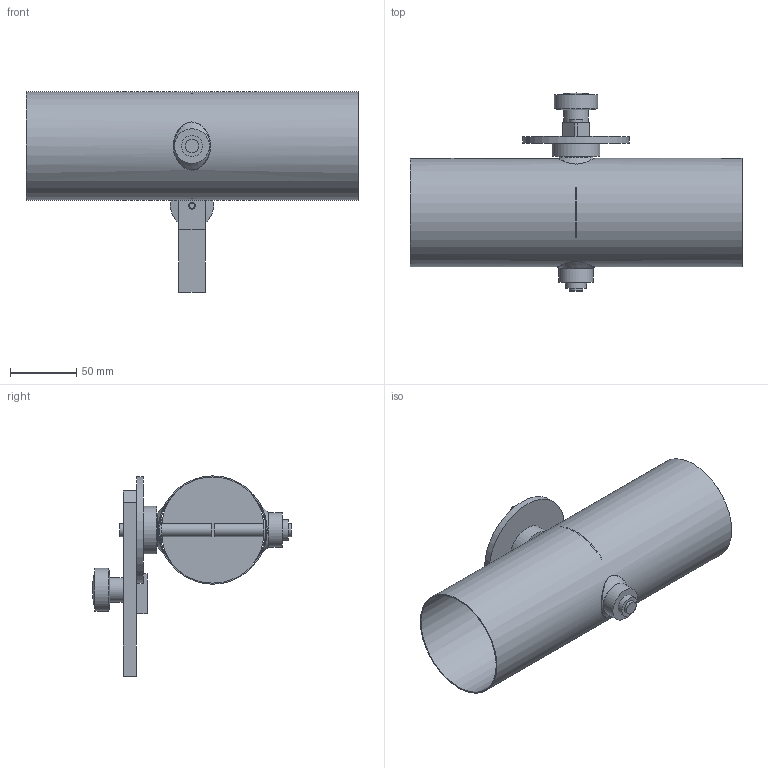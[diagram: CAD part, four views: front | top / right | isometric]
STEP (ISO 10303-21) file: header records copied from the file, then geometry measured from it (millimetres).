
FILE_DESCRIPTION(/* description */ (''),/* implementation_level */ '2;1');
FILE_NAME(/* name */ '',/* time_stamp */ '2023-03-10T15:08:12+01:00',/* author */ (''),/* organization */ (''),/* preprocessor_version */ 'ST-DEVELOPER v11',/* originating_system */ 'SIEMENS UGS NX 6.0',/* authorisation */ '');
FILE_SCHEMA (('CONFIG_CONTROL_DESIGN'));
Length unit declared in the file: millimetre
Products named in the file (1): d.ga8B38arpu
Bounding box: 250 x 149.17 x 150.8 mm (x, y, z)
Volume: 150249.9 mm3; surface area: 176924.2 mm2
Topology: 12 solids, 12 shells, 88 faces, 178 edges, 123 vertices
Faces by surface type: plane 44, cylinder 30, cone 4, bspline 4, torus 4, sphere 2
Full cylindrical faces by diameter (mm): 4.2 x1, 4.4 x2, 5 x1, 6 x1, 10 x5, 15 x3, 15.85 x2, 16.2 x2, 18.5 x1, 24 x2, 25 x1, 26 x1, 32.5 x1, 36 x1, 80 x2, 81.6 x1
Entity records: 2766 total; most frequent: CARTESIAN_POINT 1041, DIRECTION 348, ORIENTED_EDGE 236, EDGE_LOOP 162, AXIS2_PLACEMENT_3D 153, FACE_BOUND 140, EDGE_CURVE 118, VERTEX_POINT 102
